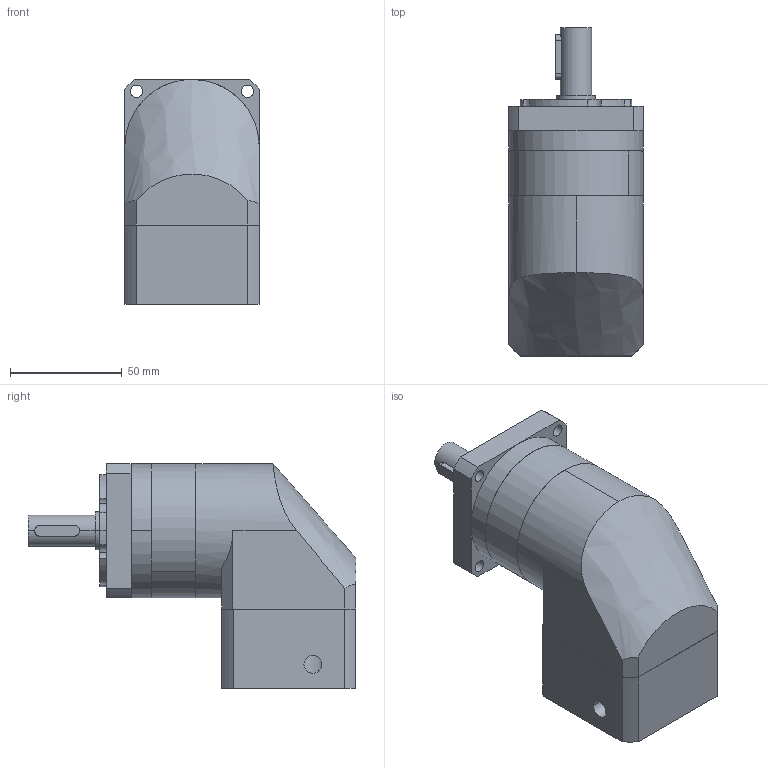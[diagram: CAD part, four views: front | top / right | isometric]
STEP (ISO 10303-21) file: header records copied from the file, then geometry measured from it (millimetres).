
FILE_DESCRIPTION (( 'STEP AP214' ), '1' );
FILE_NAME ('PFR-060-L1-S2-P2 14-50-70-M5.STEP', '2023-08-26T05:31:19', ( '微软用户' ), ( '微软中国' ), 'SwSTEP 2.0', 'SolidWorks 2018', '' );
FILE_SCHEMA (( 'AUTOMOTIVE_DESIGN' ));
Length unit declared in the file: millimetre
Products named in the file (9): 邧埴瑩  5x5x20; PFR060 κｳﾝﾈｦ_ﾒｻｼｶﾄﾚｳﾝﾈｦ; PFR060-眊极_揤翉; 囀鞠褒蹟佪-M5℅16; PFR060-薊粣; PFR-060-L1-S2-P2 14-50-70-M5; PFR060 奻屳唳_D1-70 D2-5.5 D3-14 D4-17 D5-50 L1-30 L2-35 L3-3 A1-60 S1-3 S2-20 S3-5 S4-18 B-5 H-16 C-M5 梓袧; 双列角接触球轴承 5203_2; PFR060-蟀諉啣
Assembly tree (8 placements, depth 2):
  PFR-060-L1-S2-P2 14-50-70-M5
    PFR060 奻屳唳_D1-70 D2-5.5 D3-14 D4-17 D5-50 L1-30 L2-35 L3-3 A1-60 S1-3 S2-20 S3-5 S4-18 B-5 H-16 C-M5 梓袧
    PFR060-薊粣
    双列角接触球轴承 5203_2
    PFR060-蟀諉啣
    囀鞠褒蹟佪-M5℅16
    邧埴瑩  5x5x20
    PFR060-眊极_揤翉
    PFR060 κｳﾝﾈｦ_ﾒｻｼｶﾄﾚｳﾝﾈｦ
Bounding box: 60 x 146.5 x 100.5 mm (x, y, z)
Volume: 412686.6 mm3; surface area: 93012.1 mm2
Topology: 8 solids, 8 shells, 515 faces, 1409 edges, 912 vertices
Faces by surface type: cylinder 190, plane 158, bspline 137, cone 30
Entity records: 20153 total; most frequent: CARTESIAN_POINT 7322, ORIENTED_EDGE 2782, DIRECTION 2458, EDGE_CURVE 1391, AXIS2_PLACEMENT_3D 1002, VERTEX_POINT 912, CIRCLE 613, EDGE_LOOP 603
